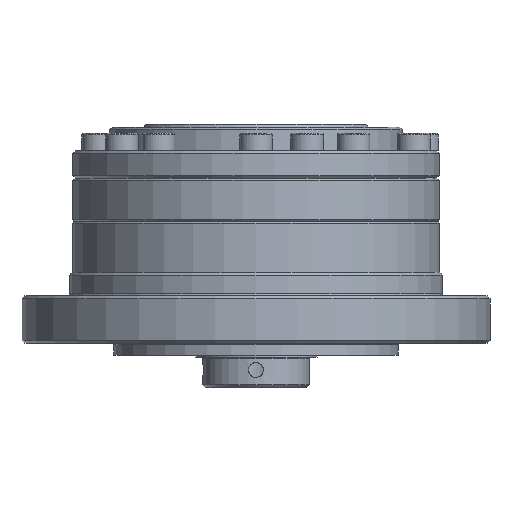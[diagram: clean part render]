
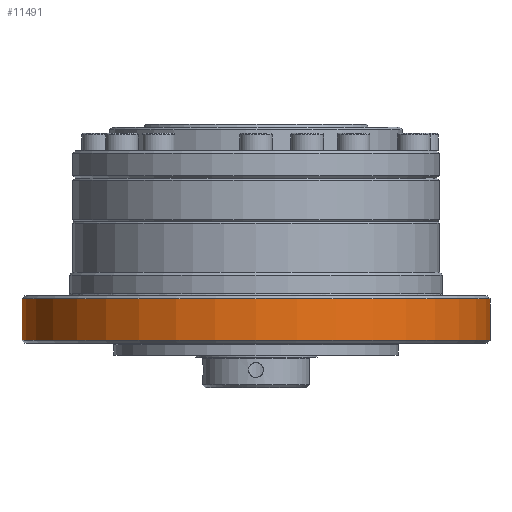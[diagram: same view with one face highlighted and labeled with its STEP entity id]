
A CAD part, front view. The second image highlights one B-rep face of the part: STEP entity #11491.
In plain terms, the highlighted cylindrical face has radius 39.5 mm (diameter 79 mm), a full revolution.
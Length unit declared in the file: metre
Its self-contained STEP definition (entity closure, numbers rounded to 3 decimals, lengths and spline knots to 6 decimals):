
#509 = ORIENTED_EDGE ( 'NONE', *, *, #1615, .T. ) ;
#1164 = DIRECTION ( 'NONE',  ( 1., 0., 0. ) ) ;
#1615 = EDGE_CURVE ( 'NONE', #16812, #16812, #15214, .T. ) ;
#1774 = EDGE_CURVE ( 'NONE', #3403, #3403, #9240, .T. ) ;
#3319 = ORIENTED_EDGE ( 'NONE', *, *, #1774, .F. ) ;
#3403 = VERTEX_POINT ( 'NONE', #12217 ) ;
#3901 = EDGE_LOOP ( 'NONE', ( #509 ) ) ;
#6463 = AXIS2_PLACEMENT_3D ( 'NONE', #12429, #12287, #1164 ) ;
#6484 = AXIS2_PLACEMENT_3D ( 'NONE', #6796, #22236, #9261 ) ;
#6541 = DIRECTION ( 'NONE',  ( 0., 0., 1. ) ) ;
#6796 = CARTESIAN_POINT ( 'NONE',  ( 0., 0., 0.0084 ) ) ;
#9240 = CIRCLE ( 'NONE', #6463, 0.0395 ) ;
#9261 = DIRECTION ( 'NONE',  ( 1., 0., 0. ) ) ;
#10748 = FACE_OUTER_BOUND ( 'NONE', #3901, .T. ) ;
#11491 = ADVANCED_FACE ( 'NONE', ( #10748, #17646 ), #24112, .T. ) ;
#12217 = CARTESIAN_POINT ( 'NONE',  ( 0.0395, 0., 0.0014 ) ) ;
#12287 = DIRECTION ( 'NONE',  ( 0., 0., -1. ) ) ;
#12429 = CARTESIAN_POINT ( 'NONE',  ( 0., 0., 0.0014 ) ) ;
#13174 = CARTESIAN_POINT ( 'NONE',  ( 0., 0., 0.0237 ) ) ;
#15214 = CIRCLE ( 'NONE', #6484, 0.0395 ) ;
#16812 = VERTEX_POINT ( 'NONE', #20843 ) ;
#17646 = FACE_OUTER_BOUND ( 'NONE', #22073, .T. ) ;
#17923 = DIRECTION ( 'NONE',  ( 1., 0., 0. ) ) ;
#20753 = AXIS2_PLACEMENT_3D ( 'NONE', #13174, #6541, #17923 ) ;
#20843 = CARTESIAN_POINT ( 'NONE',  ( 0.0395, 0., 0.0084 ) ) ;
#22073 = EDGE_LOOP ( 'NONE', ( #3319 ) ) ;
#22236 = DIRECTION ( 'NONE',  ( 0., 0., -1. ) ) ;
#24112 = CYLINDRICAL_SURFACE ( 'NONE', #20753, 0.0395 ) ;
